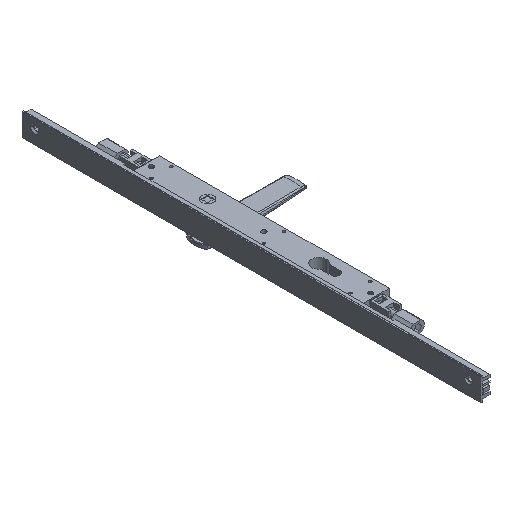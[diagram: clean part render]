
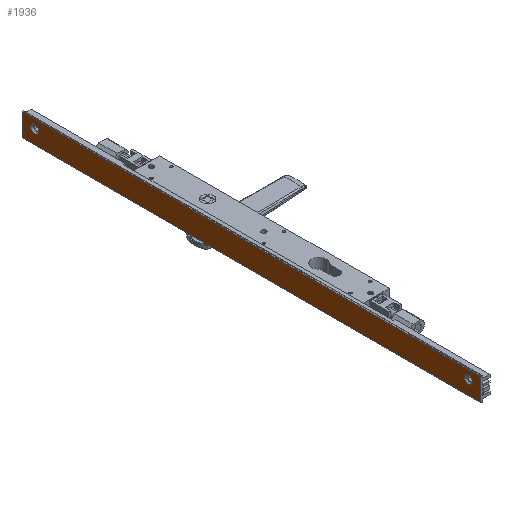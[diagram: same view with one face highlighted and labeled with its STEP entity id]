
A CAD part, isometric view. The second image highlights one B-rep face of the part: STEP entity #1936.
In plain terms, the highlighted planar face has unit normal (-1, 0, 0) as drawn and (0, 1, 0) by its records, which use the part's own axes.
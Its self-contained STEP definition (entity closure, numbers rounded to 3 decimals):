
#32 = CARTESIAN_POINT ( 'NONE',  ( 20.8, 12.4, 544. ) ) ;
#59 = DIRECTION ( 'NONE',  ( 0., 1., 0. ) ) ;
#862 = CARTESIAN_POINT ( 'NONE',  ( 11.8, 12.4, 533.889 ) ) ;
#1936 = ADVANCED_FACE ( 'NONE', ( #8037, #3157, #13062 ), #26718, .F. ) ;
#2641 = CARTESIAN_POINT ( 'NONE',  ( 11.8, 12.4, 15. ) ) ;
#2710 = AXIS2_PLACEMENT_3D ( 'NONE', #16924, #9105, #21812 ) ;
#3098 = DIRECTION ( 'NONE',  ( 0., 0., 1. ) ) ;
#3157 = FACE_BOUND ( 'NONE', #9330, .T. ) ;
#3356 = VERTEX_POINT ( 'NONE', #7892 ) ;
#3563 = CARTESIAN_POINT ( 'NONE',  ( 22., 12.4, 544. ) ) ;
#4106 = VERTEX_POINT ( 'NONE', #30338 ) ;
#4239 = ORIENTED_EDGE ( 'NONE', *, *, #26768, .T. ) ;
#5175 = LINE ( 'NONE', #22921, #21126 ) ;
#5898 = CIRCLE ( 'NONE', #2710, 4.89 ) ;
#6072 = EDGE_LOOP ( 'NONE', ( #4239, #19739, #7107, #25339 ) ) ;
#6897 = EDGE_LOOP ( 'NONE', ( #21790, #31210 ) ) ;
#7107 = ORIENTED_EDGE ( 'NONE', *, *, #8875, .F. ) ;
#7892 = CARTESIAN_POINT ( 'NONE',  ( -4.4, 12.4, 0. ) ) ;
#8037 = FACE_BOUND ( 'NONE', #6897, .T. ) ;
#8637 = EDGE_CURVE ( 'NONE', #3356, #4106, #17844, .T. ) ;
#8820 = DIRECTION ( 'NONE',  ( 0., -1., 0. ) ) ;
#8839 = DIRECTION ( 'NONE',  ( -1., 0., 0. ) ) ;
#8875 = EDGE_CURVE ( 'NONE', #30222, #4106, #8994, .T. ) ;
#8985 = CARTESIAN_POINT ( 'NONE',  ( 11.8, 12.4, 529. ) ) ;
#8994 = LINE ( 'NONE', #32, #30581 ) ;
#9009 = VERTEX_POINT ( 'NONE', #24148 ) ;
#9105 = DIRECTION ( 'NONE',  ( 0., 1., 0. ) ) ;
#9330 = EDGE_LOOP ( 'NONE', ( #13208, #19192 ) ) ;
#12224 = CARTESIAN_POINT ( 'NONE',  ( 20.8, 12.4, 0. ) ) ;
#12377 = LINE ( 'NONE', #12224, #29252 ) ;
#12806 = CIRCLE ( 'NONE', #23218, 4.889 ) ;
#13062 = FACE_OUTER_BOUND ( 'NONE', #6072, .T. ) ;
#13208 = ORIENTED_EDGE ( 'NONE', *, *, #18388, .F. ) ;
#13612 = CARTESIAN_POINT ( 'NONE',  ( 11.8, 12.4, 529. ) ) ;
#14235 = EDGE_CURVE ( 'NONE', #20762, #27405, #5898, .T. ) ;
#15236 = VERTEX_POINT ( 'NONE', #862 ) ;
#16002 = EDGE_CURVE ( 'NONE', #9009, #30222, #5175, .T. ) ;
#16665 = CIRCLE ( 'NONE', #18240, 4.889 ) ;
#16924 = CARTESIAN_POINT ( 'NONE',  ( 11.8, 12.4, 15. ) ) ;
#17844 = LINE ( 'NONE', #25324, #19116 ) ;
#18240 = AXIS2_PLACEMENT_3D ( 'NONE', #13612, #23411, #3098 ) ;
#18388 = EDGE_CURVE ( 'NONE', #15236, #21313, #12806, .T. ) ;
#18777 = DIRECTION ( 'NONE',  ( 1., 0., 0. ) ) ;
#18976 = CARTESIAN_POINT ( 'NONE',  ( 11.8, 12.4, 10.111 ) ) ;
#19116 = VECTOR ( 'NONE', #24838, 1000. ) ;
#19192 = ORIENTED_EDGE ( 'NONE', *, *, #23362, .F. ) ;
#19739 = ORIENTED_EDGE ( 'NONE', *, *, #8637, .T. ) ;
#20762 = VERTEX_POINT ( 'NONE', #18976 ) ;
#21126 = VECTOR ( 'NONE', #27480, 1000. ) ;
#21313 = VERTEX_POINT ( 'NONE', #27062 ) ;
#21691 = DIRECTION ( 'NONE',  ( 0., 0., 1. ) ) ;
#21790 = ORIENTED_EDGE ( 'NONE', *, *, #26779, .F. ) ;
#21812 = DIRECTION ( 'NONE',  ( 0., 0., 1. ) ) ;
#22341 = DIRECTION ( 'NONE',  ( -1., 0., 0. ) ) ;
#22510 = AXIS2_PLACEMENT_3D ( 'NONE', #2641, #59, #27873 ) ;
#22809 = CARTESIAN_POINT ( 'NONE',  ( 11.8, 12.4, 19.89 ) ) ;
#22921 = CARTESIAN_POINT ( 'NONE',  ( 22., 12.4, 0. ) ) ;
#23218 = AXIS2_PLACEMENT_3D ( 'NONE', #8985, #24305, #21691 ) ;
#23362 = EDGE_CURVE ( 'NONE', #21313, #15236, #16665, .T. ) ;
#23411 = DIRECTION ( 'NONE',  ( 0., 1., 0. ) ) ;
#24148 = CARTESIAN_POINT ( 'NONE',  ( 22., 12.4, 0. ) ) ;
#24305 = DIRECTION ( 'NONE',  ( 0., 1., 0. ) ) ;
#24838 = DIRECTION ( 'NONE',  ( 0., 0., 1. ) ) ;
#25324 = CARTESIAN_POINT ( 'NONE',  ( -4.4, 12.4, 0. ) ) ;
#25339 = ORIENTED_EDGE ( 'NONE', *, *, #16002, .F. ) ;
#26718 = PLANE ( 'NONE',  #30376 ) ;
#26768 = EDGE_CURVE ( 'NONE', #9009, #3356, #12377, .T. ) ;
#26779 = EDGE_CURVE ( 'NONE', #27405, #20762, #28229, .T. ) ;
#27062 = CARTESIAN_POINT ( 'NONE',  ( 11.8, 12.4, 524.111 ) ) ;
#27405 = VERTEX_POINT ( 'NONE', #22809 ) ;
#27480 = DIRECTION ( 'NONE',  ( 0., 0., 1. ) ) ;
#27873 = DIRECTION ( 'NONE',  ( 0., 0., 1. ) ) ;
#28229 = CIRCLE ( 'NONE', #22510, 4.89 ) ;
#29252 = VECTOR ( 'NONE', #22341, 1000. ) ;
#30222 = VERTEX_POINT ( 'NONE', #3563 ) ;
#30338 = CARTESIAN_POINT ( 'NONE',  ( -4.4, 12.4, 544. ) ) ;
#30376 = AXIS2_PLACEMENT_3D ( 'NONE', #31275, #8820, #18777 ) ;
#30581 = VECTOR ( 'NONE', #8839, 1000. ) ;
#31210 = ORIENTED_EDGE ( 'NONE', *, *, #14235, .F. ) ;
#31275 = CARTESIAN_POINT ( 'NONE',  ( 20.8, 12.4, 544. ) ) ;
